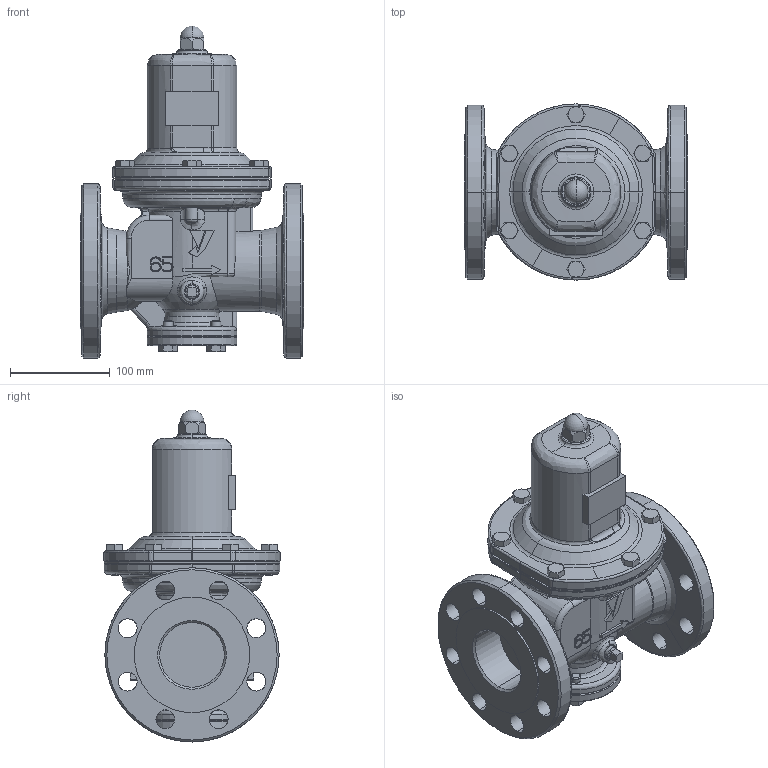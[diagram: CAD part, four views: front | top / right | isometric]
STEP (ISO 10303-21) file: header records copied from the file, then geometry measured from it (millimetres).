
FILE_DESCRIPTION( (''), '2;1');
FILE_NAME ('PC2091.11224.GD-29S-NE 65A_21249.stp','2026-03-26T17:16:02',(''),(''),'spGate 21.9.4 (****-****-****-****)','','');
FILE_SCHEMA (('AUTOMOTIVE_DESIGN'));
Length unit declared in the file: millimetre
Products named in the file (8): Assembly; 20K 弁箱　65A; カバー　65A; ダイヤフラム65A; 保護筒; CP_''_JIS B 1180 呼び径六角ボルト''_17166; プラグ; CP_''_JIS B 1183 六角袋ナット 3形 M''_705
Assembly tree (18 placements, depth 2):
  Assembly
    20K 弁箱　65A
    カバー　65A
    ダイヤフラム65A
    保護筒
    CP_''_JIS B 1180 呼び径六角ボルト''_17166  x11
    プラグ  x2
    CP_''_JIS B 1183 六角袋ナット 3形 M''_705
Bounding box: 225 x 177 x 333.5 mm (x, y, z)
Volume: 2709171.9 mm3; surface area: 467721.5 mm2
Topology: 18 solids, 18 shells, 890 faces, 2209 edges, 1361 vertices
Faces by surface type: bspline 373, cylinder 253, plane 249, sphere 15
Entity records: 42066 total; most frequent: CARTESIAN_POINT 15437, ORIENTED_EDGE 3312, DIRECTION 2319, COLOUR_RGB 2299, PRESENTATION_STYLE_ASSIGNMENT 2299, STYLED_ITEM 2299, EDGE_CURVE 1656, DRAUGHTING_PRE_DEFINED_CURVE_FONT 1656
